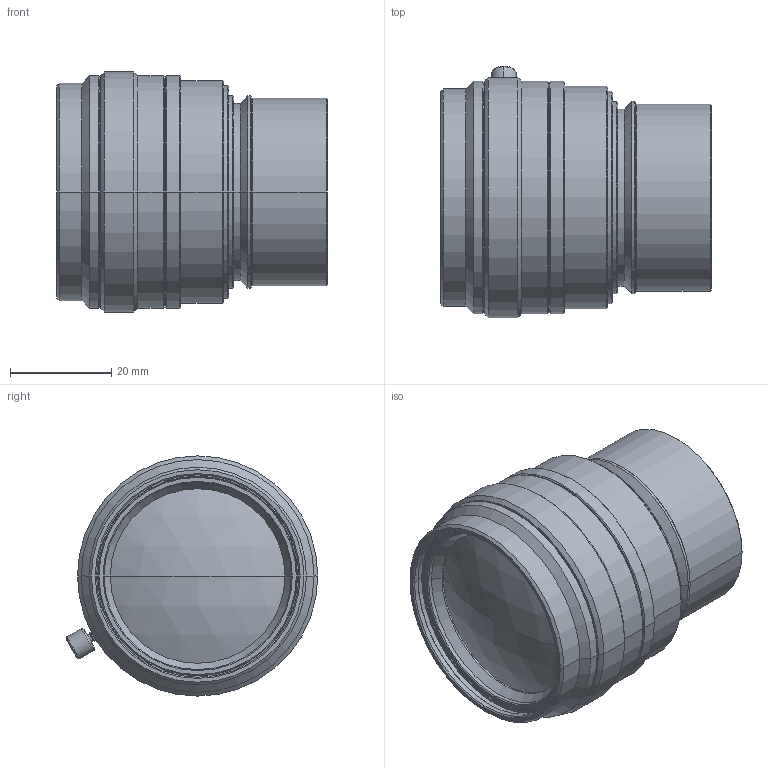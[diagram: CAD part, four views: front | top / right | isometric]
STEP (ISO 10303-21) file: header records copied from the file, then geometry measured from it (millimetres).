
FILE_DESCRIPTION (( 'STEP AP203' ), '1' );
FILE_NAME ('VS-L8540_V.STEP', '2013-12-02T02:07:23', ( 'VS Technology' ), ( '' ), 'SwSTEP 2.0', 'SolidWorks 2012', '' );
FILE_SCHEMA (( 'CONFIG_CONTROL_DESIGN' ));
Length unit declared in the file: millimetre
Products named in the file (1): VS-L8540_V
Bounding box: 53.5 x 49.74 x 47.5 mm (x, y, z)
Volume: 68208.8 mm3; surface area: 12108 mm2
Topology: 1 solids, 1 shells, 126 faces, 250 edges, 144 vertices
Faces by surface type: cone 62, cylinder 42, plane 18, sphere 4
Entity records: 3339 total; most frequent: DIRECTION 646, CARTESIAN_POINT 553, ORIENTED_EDGE 500, AXIS2_PLACEMENT_3D 271, EDGE_CURVE 250, VERTEX_POINT 144, EDGE_LOOP 144, CIRCLE 144
